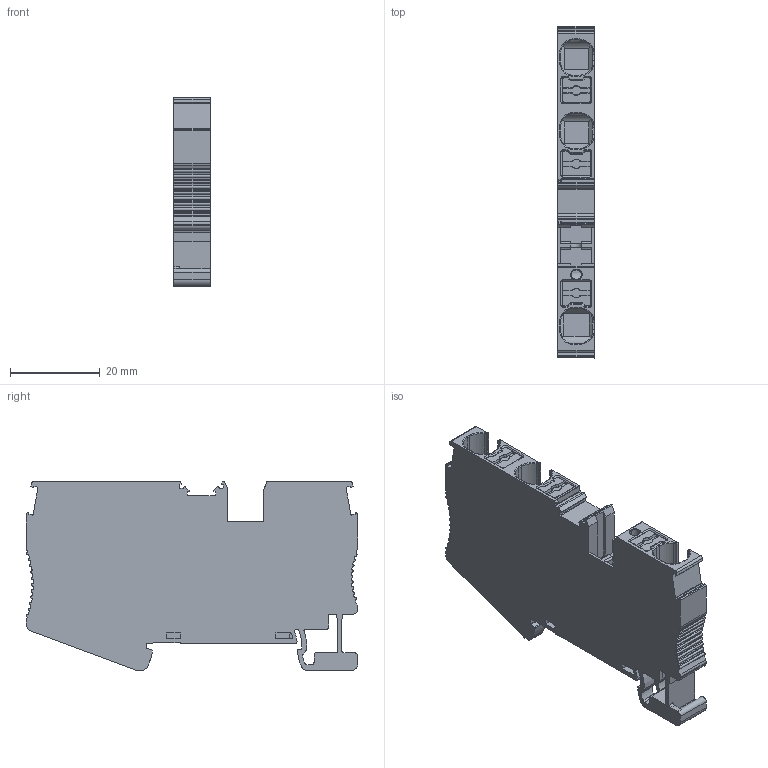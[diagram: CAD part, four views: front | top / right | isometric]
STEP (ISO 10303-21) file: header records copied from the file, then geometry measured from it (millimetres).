
FILE_DESCRIPTION((''),'2;1');
FILE_NAME('_X2_585180F6_X0__2_1_4','2024-04-03T10:37:57',('Administrator'),(''),'CREO PARAMETRIC BY PTC INC, 2018050','CREO PARAMETRIC BY PTC INC, 2018050','');
FILE_SCHEMA(('CONFIG_CONTROL_DESIGN'));
Length unit declared in the file: millimetre
Products named in the file (1): _X2_585180F6_X0__2_1_4
Bounding box: 8.15 x 74.12 x 42.2 mm (x, y, z)
Volume: 17657.8 mm3; surface area: 10878.3 mm2
Topology: 1 solids, 6 shells, 856 faces, 2399 edges, 1559 vertices
Faces by surface type: plane 437, cylinder 346, cone 32, torus 20, bspline 18, extrusion 3
Entity records: 28551 total; most frequent: CARTESIAN_POINT 6396, ORIENTED_EDGE 4798, DIRECTION 4473, EDGE_CURVE 2399, VERTEX_POINT 1559, VECTOR 1555, LINE 1552, AXIS2_PLACEMENT_3D 1459
